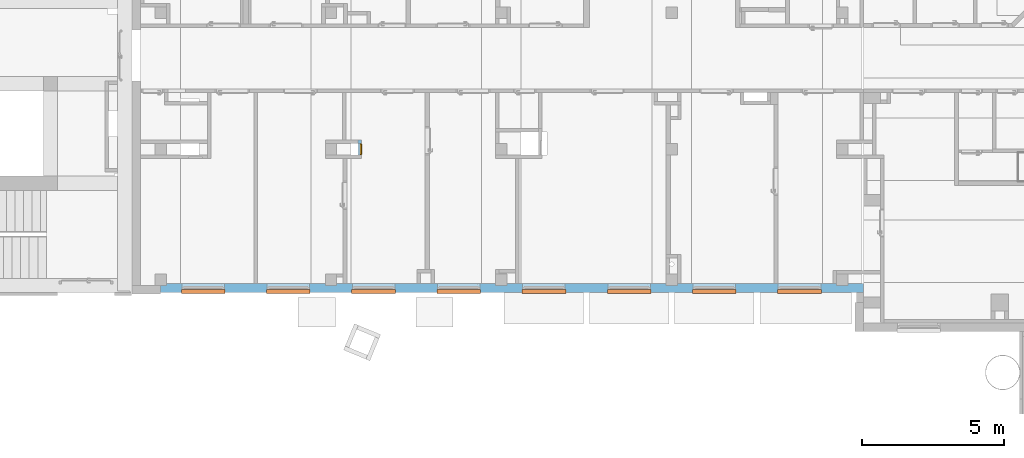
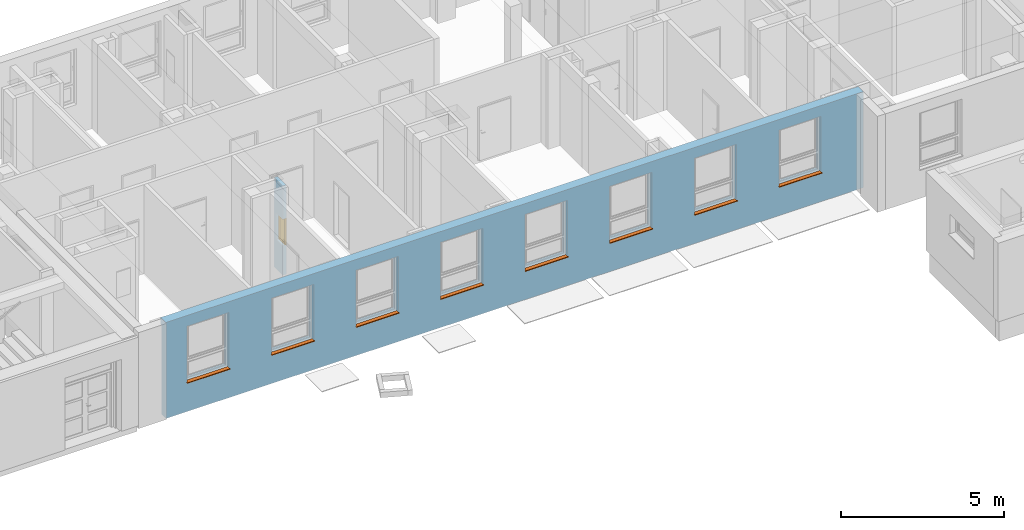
# One storey, part 63 of 140: 8 proxies, 1 window, 9 openings, plus 2 elements that do not belong to this part.
"""IFC4 building model written with IfcOpenShell, lengths in metres."""

from ifc_helpers import new_model, entity, si_unit, converted_unit, derived_unit, frame, frame_2d, origin, origin_with_axes, place, context, subcontext, project, spatial, polyline, rectangle, outline, extrude, clip, bounded_halfspace, faceted_brep, source, transform, mapped, material, layer, layer_set, layer_usage, element, fill, save


model = new_model("IFC4")

# Units and contexts
model_context = context("Model", 3, precision=1e-05, world=origin())
body_context = subcontext(model_context, "Body", "Model", "MODEL_VIEW")
ifc_project = project(units=[si_unit("LENGTHUNIT", "METRE"), si_unit("AREAUNIT", "SQUARE_METRE"), si_unit("VOLUMEUNIT", "CUBIC_METRE"), si_unit("MASSUNIT", "GRAM", prefix="KILO"), converted_unit("PLANEANGLEUNIT", "DEGREE", entity("IfcPlaneAngleMeasure", 0.0174532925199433), si_unit("PLANEANGLEUNIT", "RADIAN"), dimensions=[0, 0, 0, 0, 0, 0, 0]), derived_unit("THERMALTRANSMITTANCEUNIT", [(si_unit("POWERUNIT", "WATT"), 1), (si_unit("THERMODYNAMICTEMPERATUREUNIT", "KELVIN"), -1), (si_unit("LENGTHUNIT", "METRE"), -2)]), derived_unit("VOLUMETRICFLOWRATEUNIT", [(si_unit("LENGTHUNIT", "METRE"), 3), (converted_unit("TIMEUNIT", "hour", entity("IfcTimeMeasure", 3600.0), si_unit("TIMEUNIT", "SECOND"), dimensions=[0, 0, 1, 0, 0, 0, 0]), -1), (si_unit("LENGTHUNIT", "METRE"), -1)])], contexts=[model_context])

# Site, building, storey
site_placement = place(None, origin())
site = spatial("IfcSite", under=ifc_project, at=site_placement, Name="3. ASŘ", CompositionType="ELEMENT")
building_placement = place(site_placement, origin())
building = spatial("IfcBuilding", under=site, at=building_placement, Name="Pavilon C", CompositionType="ELEMENT")
storey_placement = place(building_placement, origin())
storey = spatial("IfcBuildingStorey", under=building, at=storey_placement, Name="Půdorys 1.NP", CompositionType="ELEMENT", Elevation=0.0)

# Wall, openings, proxies
ifc_material_1 = material(Name="ZELEZOBETONOVÁ KCE")
ifc_layer_1 = layer(ifc_material_1, 0.32)
ifc_layer_set_1 = layer_set([ifc_layer_1])
ifc_layer_usage_1 = layer_usage(ifc_layer_set_1, "AXIS2", "POSITIVE", 0.0)
wall_1_placement = place(storey_placement, frame((3.86535248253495e-15, 0.350000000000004, -0.1)))
wall_1 = element("IfcWall", 1, at=wall_1_placement, inside=storey, material=ifc_layer_usage_1, Name="ZELEZOBETONOVÁ KCE", context=body_context, shape_type="Clipping", body=[
    clip(clip(clip(clip(clip(extrude(rectangle(XDim=24.75, YDim=0.32, at=frame_2d((12.375, 0.16), x_axis=(1.0, 0.0))), origin_with_axes(), (0.0, 0.0, 1.0), 3.6), bounded_halfspace(frame((0.100000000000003, 0.285, 3.35), z_axis=(0.0, 0.0, 1.0), x_axis=(0.0, -1.0, 0.0)), True, origin_with_axes(), polyline([(-2.27373675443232e-16, 0.32), (-2.27373675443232e-16, 0.25), (0.200000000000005, 0.25), (0.200000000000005, 0.32), (-2.27373675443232e-16, 0.32)]))), bounded_halfspace(frame((18.0, 0.284999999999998, 3.35), z_axis=(0.0, 0.0, 1.0), x_axis=(-1.0, 0.0, 0.0)), True, origin_with_axes(), polyline([(18.2, 0.32), (17.8, 0.32), (17.8, 0.249999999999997), (18.2, 0.249999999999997), (18.2, 0.32)]))), bounded_halfspace(frame((12.0, 0.284999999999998, 3.35), z_axis=(0.0, 0.0, 1.0), x_axis=(-1.0, 0.0, 0.0)), True, origin_with_axes(), polyline([(12.2, 0.32), (11.8, 0.32), (11.8, 0.249999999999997), (12.2, 0.249999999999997), (12.2, 0.32)]))), bounded_halfspace(frame((6.00000000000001, 0.284999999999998, 3.35), z_axis=(0.0, 0.0, 1.0), x_axis=(-1.0, 0.0, 0.0)), True, origin_with_axes(), polyline([(6.20000000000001, 0.32), (5.80000000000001, 0.32), (5.80000000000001, 0.249999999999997), (6.20000000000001, 0.249999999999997), (6.20000000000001, 0.32)]))), bounded_halfspace(frame((24.0, 0.284999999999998, 3.35), z_axis=(0.0, 0.0, 1.0), x_axis=(-1.0, 0.0, 0.0)), True, origin_with_axes(), polyline([(24.2, 0.32), (23.8, 0.32), (23.8, 0.249999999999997), (24.2, 0.249999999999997), (24.2, 0.32)]))),
])
opening_1_placement = place(wall_1_placement, frame((3.75, 0.0, 1.1), z_axis=(0.0, 1.0, 0.0), x_axis=(0.0, 0.0, 1.0)))
opening_1 = element("IfcOpeningElement", 2, at=opening_1_placement, cuts=wall_1, Name="Okenní otvor", ObjectType="Opening", context=body_context, shape_type="SweptSolid", body=[
    extrude(outline(polyline([(0.0, 1.5), (2.1, 1.5), (2.1, 0.0), (0.0, 0.0), (0.0, 1.5)])), origin_with_axes(), (0.0, 0.0, 1.0), 0.32),
])
opening_2_placement = place(wall_1_placement, frame((6.75, 0.0, 1.1), z_axis=(0.0, 1.0, 0.0), x_axis=(0.0, 0.0, 1.0)))
opening_2 = element("IfcOpeningElement", 3, at=opening_2_placement, cuts=wall_1, Name="Okenní otvor", ObjectType="Opening", context=body_context, shape_type="SweptSolid", body=[
    extrude(outline(polyline([(0.0, 1.5), (2.1, 1.5), (2.1, 0.0), (0.0, 0.0), (0.0, 1.5)])), origin_with_axes(), (0.0, 0.0, 1.0), 0.32),
])
opening_3_placement = place(wall_1_placement, frame((9.75, 0.0, 1.1), z_axis=(0.0, 1.0, 0.0), x_axis=(0.0, 0.0, 1.0)))
opening_3 = element("IfcOpeningElement", 4, at=opening_3_placement, cuts=wall_1, Name="Okenní otvor", ObjectType="Opening", context=body_context, shape_type="SweptSolid", body=[
    extrude(outline(polyline([(0.0, 1.5), (2.1, 1.5), (2.1, 0.0), (0.0, 0.0), (0.0, 1.5)])), origin_with_axes(), (0.0, 0.0, 1.0), 0.32),
])
opening_4_placement = place(wall_1_placement, frame((12.75, 0.0, 1.1), z_axis=(0.0, 1.0, 0.0), x_axis=(0.0, 0.0, 1.0)))
opening_4 = element("IfcOpeningElement", 5, at=opening_4_placement, cuts=wall_1, Name="Okenní otvor", ObjectType="Opening", context=body_context, shape_type="SweptSolid", body=[
    extrude(outline(polyline([(0.0, 1.5), (2.1, 1.5), (2.1, 0.0), (0.0, 0.0), (0.0, 1.5)])), origin_with_axes(), (0.0, 0.0, 1.0), 0.32),
])
opening_5_placement = place(wall_1_placement, frame((15.75, 0.0, 1.1), z_axis=(0.0, 1.0, 0.0), x_axis=(0.0, 0.0, 1.0)))
opening_5 = element("IfcOpeningElement", 6, at=opening_5_placement, cuts=wall_1, Name="Okenní otvor", ObjectType="Opening", context=body_context, shape_type="SweptSolid", body=[
    extrude(outline(polyline([(0.0, 1.5), (2.1, 1.5), (2.1, 0.0), (0.0, 0.0), (0.0, 1.5)])), origin_with_axes(), (0.0, 0.0, 1.0), 0.32),
])
opening_6_placement = place(wall_1_placement, frame((18.75, 0.0, 1.1), z_axis=(0.0, 1.0, 0.0), x_axis=(0.0, 0.0, 1.0)))
opening_6 = element("IfcOpeningElement", 7, at=opening_6_placement, cuts=wall_1, Name="Okenní otvor", ObjectType="Opening", context=body_context, shape_type="SweptSolid", body=[
    extrude(outline(polyline([(0.0, 1.5), (2.1, 1.5), (2.1, 0.0), (0.0, 0.0), (0.0, 1.5)])), origin_with_axes(), (0.0, 0.0, 1.0), 0.32),
])
opening_7_placement = place(wall_1_placement, frame((21.75, 0.0, 1.1), z_axis=(0.0, 1.0, 0.0), x_axis=(0.0, 0.0, 1.0)))
opening_7 = element("IfcOpeningElement", 8, at=opening_7_placement, cuts=wall_1, Name="Okenní otvor", ObjectType="Opening", context=body_context, shape_type="SweptSolid", body=[
    extrude(outline(polyline([(0.0, 1.5), (2.1, 1.5), (2.1, 0.0), (0.0, 0.0), (0.0, 1.5)])), origin_with_axes(), (0.0, 0.0, 1.0), 0.32),
])
opening_8_placement = place(wall_1_placement, frame((0.75, 0.0, 1.1), z_axis=(0.0, 1.0, 0.0), x_axis=(0.0, 0.0, 1.0)))
opening_8 = element("IfcOpeningElement", 9, at=opening_8_placement, cuts=wall_1, Name="Okenní otvor", ObjectType="Opening", context=body_context, shape_type="SweptSolid", body=[
    extrude(outline(polyline([(0.0, 1.5), (2.1, 1.5), (2.1, 0.0), (0.0, 0.0), (0.0, 1.5)])), origin_with_axes(), (0.0, 0.0, 1.0), 0.32),
])
ifc_material_2 = material(Name="PLECH")
shared_shape_1 = source(origin_with_axes(), body_context, "Body", "Brep", [
    faceted_brep([(0.0, 0.0, 0.0), (0.0, 0.1, 0.0), (0.0, 0.1, 0.005), (0.0, 0.0, 0.005), (1.5, 0.0, 0.0), (1.5, 0.0, 0.005), (1.5, 0.1, 0.005), (1.5, 0.1, 0.0), (-0.02, 0.0, 0.0), (-0.02, -0.035, 0.0), (1.52, -0.035, 0.0), (1.52, 0.0, 0.0), (1.52, 0.0, 0.005), (1.52, -0.04, 0.005), (-0.02, -0.04, 0.005), (-0.02, 0.0, 0.005), (-0.02, -0.04, -0.025), (-0.02, -0.035, -0.025), (1.52, -0.035, -0.025), (1.52, -0.04, -0.025)], [[[0, 1, 2, 3]], [[4, 5, 6, 7]], [[1, 0, 8, 9, 10, 11, 4, 7]], [[2, 1, 7, 6]], [[3, 2, 6, 5, 12, 13, 14, 15]], [[8, 15, 14, 16, 17, 9]], [[11, 10, 18, 19, 13, 12]], [[15, 8, 0, 3]], [[5, 4, 11, 12]], [[16, 14, 13, 19]], [[17, 16, 19, 18]], [[9, 17, 18, 10]]], orient=[[False], [False], [False], [False], [False], [False], [False], [False], [False], [False], [False], [False]]),
    faceted_brep([(-0.02, 0.0, 0.0), (-0.02, 0.1, 0.0), (-0.02, 0.1, 0.005), (-0.02, 0.0, 0.005), (0.0, 0.0, 0.0), (0.0, 0.0, 0.005), (0.0, 0.1, 0.005), (0.0, 0.1, 0.0)], [[[0, 1, 2, 3]], [[4, 5, 6, 7]], [[1, 0, 4, 7]], [[2, 1, 7, 6]], [[3, 2, 6, 5]], [[0, 3, 5, 4]]], orient=[[False], [False], [False], [False], [False], [False]]),
    faceted_brep([(1.5, 0.0, 0.0), (1.5, 0.1, 0.0), (1.5, 0.1, 0.005), (1.5, 0.0, 0.005), (1.52, 0.0, 0.0), (1.52, 0.0, 0.005), (1.52, 0.1, 0.005), (1.52, 0.1, 0.0)], [[[0, 1, 2, 3]], [[4, 5, 6, 7]], [[1, 0, 4, 7]], [[2, 1, 7, 6]], [[3, 2, 6, 5]], [[0, 3, 5, 4]]], orient=[[False], [False], [False], [False], [False], [False]]),
])
proxy_1_placement = place(opening_1_placement, frame((0.0, 0.0, 0.0), z_axis=(1.0, 0.0, 0.0), x_axis=(0.0, 1.0, 0.0)))
proxy_1 = element("IfcBuildingElementProxy", 10, at=proxy_1_placement, inside=storey, material=ifc_material_2, Name="Parapet vnější", context=body_context, shape_type="MappedRepresentation", body=[
    mapped(shared_shape_1, transform((0.0, 0.0, 0.0), x_axis=(1.0, 0.0, 0.0), y_axis=(0.0, 1.0, 0.0), z_axis=(0.0, 0.0, 1.0), scale=1.0)),
])
fill(opening_1, proxy_1)
ifc_material_3 = material(Name="PLECH")
shared_shape_2 = source(origin_with_axes(), body_context, "Body", "Brep", [
    faceted_brep([(0.0, 0.0, 0.0), (0.0, 0.1, 0.0), (0.0, 0.1, 0.005), (0.0, 0.0, 0.005), (1.5, 0.0, 0.0), (1.5, 0.0, 0.005), (1.5, 0.1, 0.005), (1.5, 0.1, 0.0), (-0.02, 0.0, 0.0), (-0.02, -0.035, 0.0), (1.52, -0.035, 0.0), (1.52, 0.0, 0.0), (1.52, 0.0, 0.005), (1.52, -0.04, 0.005), (-0.02, -0.04, 0.005), (-0.02, 0.0, 0.005), (-0.02, -0.04, -0.025), (-0.02, -0.035, -0.025), (1.52, -0.035, -0.025), (1.52, -0.04, -0.025)], [[[0, 1, 2, 3]], [[4, 5, 6, 7]], [[1, 0, 8, 9, 10, 11, 4, 7]], [[2, 1, 7, 6]], [[3, 2, 6, 5, 12, 13, 14, 15]], [[8, 15, 14, 16, 17, 9]], [[11, 10, 18, 19, 13, 12]], [[15, 8, 0, 3]], [[5, 4, 11, 12]], [[16, 14, 13, 19]], [[17, 16, 19, 18]], [[9, 17, 18, 10]]], orient=[[False], [False], [False], [False], [False], [False], [False], [False], [False], [False], [False], [False]]),
    faceted_brep([(-0.02, 0.0, 0.0), (-0.02, 0.1, 0.0), (-0.02, 0.1, 0.005), (-0.02, 0.0, 0.005), (0.0, 0.0, 0.0), (0.0, 0.0, 0.005), (0.0, 0.1, 0.005), (0.0, 0.1, 0.0)], [[[0, 1, 2, 3]], [[4, 5, 6, 7]], [[1, 0, 4, 7]], [[2, 1, 7, 6]], [[3, 2, 6, 5]], [[0, 3, 5, 4]]], orient=[[False], [False], [False], [False], [False], [False]]),
    faceted_brep([(1.5, 0.0, 0.0), (1.5, 0.1, 0.0), (1.5, 0.1, 0.005), (1.5, 0.0, 0.005), (1.52, 0.0, 0.0), (1.52, 0.0, 0.005), (1.52, 0.1, 0.005), (1.52, 0.1, 0.0)], [[[0, 1, 2, 3]], [[4, 5, 6, 7]], [[1, 0, 4, 7]], [[2, 1, 7, 6]], [[3, 2, 6, 5]], [[0, 3, 5, 4]]], orient=[[False], [False], [False], [False], [False], [False]]),
])
proxy_2_placement = place(opening_2_placement, frame((0.0, 0.0, 0.0), z_axis=(1.0, 0.0, 0.0), x_axis=(0.0, 1.0, 0.0)))
proxy_2 = element("IfcBuildingElementProxy", 11, at=proxy_2_placement, inside=storey, material=ifc_material_3, Name="Parapet vnější", context=body_context, shape_type="MappedRepresentation", body=[
    mapped(shared_shape_2, transform((0.0, 0.0, 0.0), x_axis=(1.0, 0.0, 0.0), y_axis=(0.0, 1.0, 0.0), z_axis=(0.0, 0.0, 1.0), scale=1.0)),
])
fill(opening_2, proxy_2)
ifc_material_4 = material(Name="PLECH")
shared_shape_3 = source(origin_with_axes(), body_context, "Body", "Brep", [
    faceted_brep([(0.0, 0.0, 0.0), (0.0, 0.1, 0.0), (0.0, 0.1, 0.005), (0.0, 0.0, 0.005), (1.5, 0.0, 0.0), (1.5, 0.0, 0.005), (1.5, 0.1, 0.005), (1.5, 0.1, 0.0), (-0.02, 0.0, 0.0), (-0.02, -0.035, 0.0), (1.52, -0.035, 0.0), (1.52, 0.0, 0.0), (1.52, 0.0, 0.005), (1.52, -0.04, 0.005), (-0.02, -0.04, 0.005), (-0.02, 0.0, 0.005), (-0.02, -0.04, -0.025), (-0.02, -0.035, -0.025), (1.52, -0.035, -0.025), (1.52, -0.04, -0.025)], [[[0, 1, 2, 3]], [[4, 5, 6, 7]], [[1, 0, 8, 9, 10, 11, 4, 7]], [[2, 1, 7, 6]], [[3, 2, 6, 5, 12, 13, 14, 15]], [[8, 15, 14, 16, 17, 9]], [[11, 10, 18, 19, 13, 12]], [[15, 8, 0, 3]], [[5, 4, 11, 12]], [[16, 14, 13, 19]], [[17, 16, 19, 18]], [[9, 17, 18, 10]]], orient=[[False], [False], [False], [False], [False], [False], [False], [False], [False], [False], [False], [False]]),
    faceted_brep([(-0.02, 0.0, 0.0), (-0.02, 0.1, 0.0), (-0.02, 0.1, 0.005), (-0.02, 0.0, 0.005), (0.0, 0.0, 0.0), (0.0, 0.0, 0.005), (0.0, 0.1, 0.005), (0.0, 0.1, 0.0)], [[[0, 1, 2, 3]], [[4, 5, 6, 7]], [[1, 0, 4, 7]], [[2, 1, 7, 6]], [[3, 2, 6, 5]], [[0, 3, 5, 4]]], orient=[[False], [False], [False], [False], [False], [False]]),
    faceted_brep([(1.5, 0.0, 0.0), (1.5, 0.1, 0.0), (1.5, 0.1, 0.005), (1.5, 0.0, 0.005), (1.52, 0.0, 0.0), (1.52, 0.0, 0.005), (1.52, 0.1, 0.005), (1.52, 0.1, 0.0)], [[[0, 1, 2, 3]], [[4, 5, 6, 7]], [[1, 0, 4, 7]], [[2, 1, 7, 6]], [[3, 2, 6, 5]], [[0, 3, 5, 4]]], orient=[[False], [False], [False], [False], [False], [False]]),
])
proxy_3_placement = place(opening_3_placement, frame((0.0, 0.0, 0.0), z_axis=(1.0, 0.0, 0.0), x_axis=(0.0, 1.0, 0.0)))
proxy_3 = element("IfcBuildingElementProxy", 12, at=proxy_3_placement, inside=storey, material=ifc_material_4, Name="Parapet vnější", context=body_context, shape_type="MappedRepresentation", body=[
    mapped(shared_shape_3, transform((0.0, 0.0, 0.0), x_axis=(1.0, 0.0, 0.0), y_axis=(0.0, 1.0, 0.0), z_axis=(0.0, 0.0, 1.0), scale=1.0)),
])
fill(opening_3, proxy_3)
ifc_material_5 = material(Name="PLECH")
shared_shape_4 = source(origin_with_axes(), body_context, "Body", "Brep", [
    faceted_brep([(0.0, 0.0, 0.0), (0.0, 0.1, 0.0), (0.0, 0.1, 0.005), (0.0, 0.0, 0.005), (1.5, 0.0, 0.0), (1.5, 0.0, 0.005), (1.5, 0.1, 0.005), (1.5, 0.1, 0.0), (-0.02, 0.0, 0.0), (-0.02, -0.035, 0.0), (1.52, -0.035, 0.0), (1.52, 0.0, 0.0), (1.52, 0.0, 0.005), (1.52, -0.04, 0.005), (-0.02, -0.04, 0.005), (-0.02, 0.0, 0.005), (-0.02, -0.04, -0.025), (-0.02, -0.035, -0.025), (1.52, -0.035, -0.025), (1.52, -0.04, -0.025)], [[[0, 1, 2, 3]], [[4, 5, 6, 7]], [[1, 0, 8, 9, 10, 11, 4, 7]], [[2, 1, 7, 6]], [[3, 2, 6, 5, 12, 13, 14, 15]], [[8, 15, 14, 16, 17, 9]], [[11, 10, 18, 19, 13, 12]], [[15, 8, 0, 3]], [[5, 4, 11, 12]], [[16, 14, 13, 19]], [[17, 16, 19, 18]], [[9, 17, 18, 10]]], orient=[[False], [False], [False], [False], [False], [False], [False], [False], [False], [False], [False], [False]]),
    faceted_brep([(-0.02, 0.0, 0.0), (-0.02, 0.1, 0.0), (-0.02, 0.1, 0.005), (-0.02, 0.0, 0.005), (0.0, 0.0, 0.0), (0.0, 0.0, 0.005), (0.0, 0.1, 0.005), (0.0, 0.1, 0.0)], [[[0, 1, 2, 3]], [[4, 5, 6, 7]], [[1, 0, 4, 7]], [[2, 1, 7, 6]], [[3, 2, 6, 5]], [[0, 3, 5, 4]]], orient=[[False], [False], [False], [False], [False], [False]]),
    faceted_brep([(1.5, 0.0, 0.0), (1.5, 0.1, 0.0), (1.5, 0.1, 0.005), (1.5, 0.0, 0.005), (1.52, 0.0, 0.0), (1.52, 0.0, 0.005), (1.52, 0.1, 0.005), (1.52, 0.1, 0.0)], [[[0, 1, 2, 3]], [[4, 5, 6, 7]], [[1, 0, 4, 7]], [[2, 1, 7, 6]], [[3, 2, 6, 5]], [[0, 3, 5, 4]]], orient=[[False], [False], [False], [False], [False], [False]]),
])
proxy_4_placement = place(opening_4_placement, frame((0.0, 0.0, 0.0), z_axis=(1.0, 0.0, 0.0), x_axis=(0.0, 1.0, 0.0)))
proxy_4 = element("IfcBuildingElementProxy", 13, at=proxy_4_placement, inside=storey, material=ifc_material_5, Name="Parapet vnější", context=body_context, shape_type="MappedRepresentation", body=[
    mapped(shared_shape_4, transform((0.0, 0.0, 0.0), x_axis=(1.0, 0.0, 0.0), y_axis=(0.0, 1.0, 0.0), z_axis=(0.0, 0.0, 1.0), scale=1.0)),
])
fill(opening_4, proxy_4)
ifc_material_6 = material(Name="PLECH")
shared_shape_5 = source(origin_with_axes(), body_context, "Body", "Brep", [
    faceted_brep([(0.0, 0.0, 0.0), (0.0, 0.1, 0.0), (0.0, 0.1, 0.005), (0.0, 0.0, 0.005), (1.5, 0.0, 0.0), (1.5, 0.0, 0.005), (1.5, 0.1, 0.005), (1.5, 0.1, 0.0), (-0.02, 0.0, 0.0), (-0.02, -0.035, 0.0), (1.52, -0.035, 0.0), (1.52, 0.0, 0.0), (1.52, 0.0, 0.005), (1.52, -0.04, 0.005), (-0.02, -0.04, 0.005), (-0.02, 0.0, 0.005), (-0.02, -0.04, -0.025), (-0.02, -0.035, -0.025), (1.52, -0.035, -0.025), (1.52, -0.04, -0.025)], [[[0, 1, 2, 3]], [[4, 5, 6, 7]], [[1, 0, 8, 9, 10, 11, 4, 7]], [[2, 1, 7, 6]], [[3, 2, 6, 5, 12, 13, 14, 15]], [[8, 15, 14, 16, 17, 9]], [[11, 10, 18, 19, 13, 12]], [[15, 8, 0, 3]], [[5, 4, 11, 12]], [[16, 14, 13, 19]], [[17, 16, 19, 18]], [[9, 17, 18, 10]]], orient=[[False], [False], [False], [False], [False], [False], [False], [False], [False], [False], [False], [False]]),
    faceted_brep([(-0.02, 0.0, 0.0), (-0.02, 0.1, 0.0), (-0.02, 0.1, 0.005), (-0.02, 0.0, 0.005), (0.0, 0.0, 0.0), (0.0, 0.0, 0.005), (0.0, 0.1, 0.005), (0.0, 0.1, 0.0)], [[[0, 1, 2, 3]], [[4, 5, 6, 7]], [[1, 0, 4, 7]], [[2, 1, 7, 6]], [[3, 2, 6, 5]], [[0, 3, 5, 4]]], orient=[[False], [False], [False], [False], [False], [False]]),
    faceted_brep([(1.5, 0.0, 0.0), (1.5, 0.1, 0.0), (1.5, 0.1, 0.005), (1.5, 0.0, 0.005), (1.52, 0.0, 0.0), (1.52, 0.0, 0.005), (1.52, 0.1, 0.005), (1.52, 0.1, 0.0)], [[[0, 1, 2, 3]], [[4, 5, 6, 7]], [[1, 0, 4, 7]], [[2, 1, 7, 6]], [[3, 2, 6, 5]], [[0, 3, 5, 4]]], orient=[[False], [False], [False], [False], [False], [False]]),
])
proxy_5_placement = place(opening_5_placement, frame((0.0, 0.0, 0.0), z_axis=(1.0, 0.0, 0.0), x_axis=(0.0, 1.0, 0.0)))
proxy_5 = element("IfcBuildingElementProxy", 14, at=proxy_5_placement, inside=storey, material=ifc_material_6, Name="Parapet vnější", context=body_context, shape_type="MappedRepresentation", body=[
    mapped(shared_shape_5, transform((0.0, 0.0, 0.0), x_axis=(1.0, 0.0, 0.0), y_axis=(0.0, 1.0, 0.0), z_axis=(0.0, 0.0, 1.0), scale=1.0)),
])
fill(opening_5, proxy_5)
ifc_material_7 = material(Name="PLECH")
shared_shape_6 = source(origin_with_axes(), body_context, "Body", "Brep", [
    faceted_brep([(0.0, 0.0, 0.0), (0.0, 0.1, 0.0), (0.0, 0.1, 0.005), (0.0, 0.0, 0.005), (1.5, 0.0, 0.0), (1.5, 0.0, 0.005), (1.5, 0.1, 0.005), (1.5, 0.1, 0.0), (-0.02, 0.0, 0.0), (-0.02, -0.035, 0.0), (1.52, -0.035, 0.0), (1.52, 0.0, 0.0), (1.52, 0.0, 0.005), (1.52, -0.04, 0.005), (-0.02, -0.04, 0.005), (-0.02, 0.0, 0.005), (-0.02, -0.04, -0.025), (-0.02, -0.035, -0.025), (1.52, -0.035, -0.025), (1.52, -0.04, -0.025)], [[[0, 1, 2, 3]], [[4, 5, 6, 7]], [[1, 0, 8, 9, 10, 11, 4, 7]], [[2, 1, 7, 6]], [[3, 2, 6, 5, 12, 13, 14, 15]], [[8, 15, 14, 16, 17, 9]], [[11, 10, 18, 19, 13, 12]], [[15, 8, 0, 3]], [[5, 4, 11, 12]], [[16, 14, 13, 19]], [[17, 16, 19, 18]], [[9, 17, 18, 10]]], orient=[[False], [False], [False], [False], [False], [False], [False], [False], [False], [False], [False], [False]]),
    faceted_brep([(-0.02, 0.0, 0.0), (-0.02, 0.1, 0.0), (-0.02, 0.1, 0.005), (-0.02, 0.0, 0.005), (0.0, 0.0, 0.0), (0.0, 0.0, 0.005), (0.0, 0.1, 0.005), (0.0, 0.1, 0.0)], [[[0, 1, 2, 3]], [[4, 5, 6, 7]], [[1, 0, 4, 7]], [[2, 1, 7, 6]], [[3, 2, 6, 5]], [[0, 3, 5, 4]]], orient=[[False], [False], [False], [False], [False], [False]]),
    faceted_brep([(1.5, 0.0, 0.0), (1.5, 0.1, 0.0), (1.5, 0.1, 0.005), (1.5, 0.0, 0.005), (1.52, 0.0, 0.0), (1.52, 0.0, 0.005), (1.52, 0.1, 0.005), (1.52, 0.1, 0.0)], [[[0, 1, 2, 3]], [[4, 5, 6, 7]], [[1, 0, 4, 7]], [[2, 1, 7, 6]], [[3, 2, 6, 5]], [[0, 3, 5, 4]]], orient=[[False], [False], [False], [False], [False], [False]]),
])
proxy_6_placement = place(opening_6_placement, frame((0.0, 0.0, 0.0), z_axis=(1.0, 0.0, 0.0), x_axis=(0.0, 1.0, 0.0)))
proxy_6 = element("IfcBuildingElementProxy", 15, at=proxy_6_placement, inside=storey, material=ifc_material_7, Name="Parapet vnější", context=body_context, shape_type="MappedRepresentation", body=[
    mapped(shared_shape_6, transform((0.0, 0.0, 0.0), x_axis=(1.0, 0.0, 0.0), y_axis=(0.0, 1.0, 0.0), z_axis=(0.0, 0.0, 1.0), scale=1.0)),
])
fill(opening_6, proxy_6)
ifc_material_8 = material(Name="PLECH")
shared_shape_7 = source(origin_with_axes(), body_context, "Body", "Brep", [
    faceted_brep([(0.0, 0.0, 0.0), (0.0, 0.1, 0.0), (0.0, 0.1, 0.005), (0.0, 0.0, 0.005), (1.5, 0.0, 0.0), (1.5, 0.0, 0.005), (1.5, 0.1, 0.005), (1.5, 0.1, 0.0), (-0.02, 0.0, 0.0), (-0.02, -0.035, 0.0), (1.52, -0.035, 0.0), (1.52, 0.0, 0.0), (1.52, 0.0, 0.005), (1.52, -0.04, 0.005), (-0.02, -0.04, 0.005), (-0.02, 0.0, 0.005), (-0.02, -0.04, -0.025), (-0.02, -0.035, -0.025), (1.52, -0.035, -0.025), (1.52, -0.04, -0.025)], [[[0, 1, 2, 3]], [[4, 5, 6, 7]], [[1, 0, 8, 9, 10, 11, 4, 7]], [[2, 1, 7, 6]], [[3, 2, 6, 5, 12, 13, 14, 15]], [[8, 15, 14, 16, 17, 9]], [[11, 10, 18, 19, 13, 12]], [[15, 8, 0, 3]], [[5, 4, 11, 12]], [[16, 14, 13, 19]], [[17, 16, 19, 18]], [[9, 17, 18, 10]]], orient=[[False], [False], [False], [False], [False], [False], [False], [False], [False], [False], [False], [False]]),
    faceted_brep([(-0.02, 0.0, 0.0), (-0.02, 0.1, 0.0), (-0.02, 0.1, 0.005), (-0.02, 0.0, 0.005), (0.0, 0.0, 0.0), (0.0, 0.0, 0.005), (0.0, 0.1, 0.005), (0.0, 0.1, 0.0)], [[[0, 1, 2, 3]], [[4, 5, 6, 7]], [[1, 0, 4, 7]], [[2, 1, 7, 6]], [[3, 2, 6, 5]], [[0, 3, 5, 4]]], orient=[[False], [False], [False], [False], [False], [False]]),
    faceted_brep([(1.5, 0.0, 0.0), (1.5, 0.1, 0.0), (1.5, 0.1, 0.005), (1.5, 0.0, 0.005), (1.52, 0.0, 0.0), (1.52, 0.0, 0.005), (1.52, 0.1, 0.005), (1.52, 0.1, 0.0)], [[[0, 1, 2, 3]], [[4, 5, 6, 7]], [[1, 0, 4, 7]], [[2, 1, 7, 6]], [[3, 2, 6, 5]], [[0, 3, 5, 4]]], orient=[[False], [False], [False], [False], [False], [False]]),
])
proxy_7_placement = place(opening_7_placement, frame((0.0, 0.0, 0.0), z_axis=(1.0, 0.0, 0.0), x_axis=(0.0, 1.0, 0.0)))
proxy_7 = element("IfcBuildingElementProxy", 16, at=proxy_7_placement, inside=storey, material=ifc_material_8, Name="Parapet vnější", context=body_context, shape_type="MappedRepresentation", body=[
    mapped(shared_shape_7, transform((0.0, 0.0, 0.0), x_axis=(1.0, 0.0, 0.0), y_axis=(0.0, 1.0, 0.0), z_axis=(0.0, 0.0, 1.0), scale=1.0)),
])
fill(opening_7, proxy_7)
ifc_material_9 = material(Name="PLECH")
shared_shape_8 = source(origin_with_axes(), body_context, "Body", "Brep", [
    faceted_brep([(0.0, 0.0, 0.0), (0.0, 0.1, 0.0), (0.0, 0.1, 0.005), (0.0, 0.0, 0.005), (1.5, 0.0, 0.0), (1.5, 0.0, 0.005), (1.5, 0.1, 0.005), (1.5, 0.1, 0.0), (-0.02, 0.0, 0.0), (-0.02, -0.035, 0.0), (1.52, -0.035, 0.0), (1.52, 0.0, 0.0), (1.52, 0.0, 0.005), (1.52, -0.04, 0.005), (-0.02, -0.04, 0.005), (-0.02, 0.0, 0.005), (-0.02, -0.04, -0.025), (-0.02, -0.035, -0.025), (1.52, -0.035, -0.025), (1.52, -0.04, -0.025)], [[[0, 1, 2, 3]], [[4, 5, 6, 7]], [[1, 0, 8, 9, 10, 11, 4, 7]], [[2, 1, 7, 6]], [[3, 2, 6, 5, 12, 13, 14, 15]], [[8, 15, 14, 16, 17, 9]], [[11, 10, 18, 19, 13, 12]], [[15, 8, 0, 3]], [[5, 4, 11, 12]], [[16, 14, 13, 19]], [[17, 16, 19, 18]], [[9, 17, 18, 10]]], orient=[[False], [False], [False], [False], [False], [False], [False], [False], [False], [False], [False], [False]]),
    faceted_brep([(-0.02, 0.0, 0.0), (-0.02, 0.1, 0.0), (-0.02, 0.1, 0.005), (-0.02, 0.0, 0.005), (0.0, 0.0, 0.0), (0.0, 0.0, 0.005), (0.0, 0.1, 0.005), (0.0, 0.1, 0.0)], [[[0, 1, 2, 3]], [[4, 5, 6, 7]], [[1, 0, 4, 7]], [[2, 1, 7, 6]], [[3, 2, 6, 5]], [[0, 3, 5, 4]]], orient=[[False], [False], [False], [False], [False], [False]]),
    faceted_brep([(1.5, 0.0, 0.0), (1.5, 0.1, 0.0), (1.5, 0.1, 0.005), (1.5, 0.0, 0.005), (1.52, 0.0, 0.0), (1.52, 0.0, 0.005), (1.52, 0.1, 0.005), (1.52, 0.1, 0.0)], [[[0, 1, 2, 3]], [[4, 5, 6, 7]], [[1, 0, 4, 7]], [[2, 1, 7, 6]], [[3, 2, 6, 5]], [[0, 3, 5, 4]]], orient=[[False], [False], [False], [False], [False], [False]]),
])
proxy_8_placement = place(opening_8_placement, frame((0.0, 0.0, 0.0), z_axis=(1.0, 0.0, 0.0), x_axis=(0.0, 1.0, 0.0)))
proxy_8 = element("IfcBuildingElementProxy", 17, at=proxy_8_placement, inside=storey, material=ifc_material_9, Name="Parapet vnější", context=body_context, shape_type="MappedRepresentation", body=[
    mapped(shared_shape_8, transform((0.0, 0.0, 0.0), x_axis=(1.0, 0.0, 0.0), y_axis=(0.0, 1.0, 0.0), z_axis=(0.0, 0.0, 1.0), scale=1.0)),
])
fill(opening_8, proxy_8)

# Wall, opening, window
ifc_material_10 = material(Name="ZDIVO Z CDm")
ifc_layer_2 = layer(ifc_material_10, 0.125)
ifc_layer_set_2 = layer_set([ifc_layer_2])
ifc_layer_usage_2 = layer_usage(ifc_layer_set_2, "AXIS2", "POSITIVE", 0.0)
wall_2_placement = place(storey_placement, frame((6.95000000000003, 5.725, -0.1), z_axis=(0.0, 0.0, 1.0), x_axis=(0.0, -1.0, 0.0)))
wall_2 = element("IfcWall", 18, at=wall_2_placement, inside=storey, material=ifc_layer_usage_2, Name="ZDIVO Z CDm", context=body_context, shape_type="SweptSolid", body=[
    extrude(rectangle(XDim=0.525, YDim=0.125, at=frame_2d((0.2625, 0.0625), x_axis=(1.0, 0.0))), origin_with_axes(), (0.0, 0.0, 1.0), 3.35),
])
opening_9_placement = place(wall_2_placement, frame((0.525, 0.125, 1.1), z_axis=(0.0, -1.0, 0.0), x_axis=(0.0, 0.0, 1.0)))
opening_9 = element("IfcOpeningElement", 19, at=opening_9_placement, cuts=wall_2, Name="Okenní otvor", ObjectType="Opening", context=body_context, shape_type="SweptSolid", body=[
    extrude(outline(polyline([(0.0, 0.399999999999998), (1.0, 0.399999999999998), (1.0, 0.0), (0.0, 0.0), (0.0, 0.399999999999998)])), origin_with_axes(), (0.0, 0.0, 1.0), 0.125),
])
shared_shape_9 = source(origin_with_axes(), body_context, "Body", "Brep", [
    faceted_brep([(0.0, 0.0600000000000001, 1.0), (0.0, 0.06, 4.91096680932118e-19), (0.02, 0.06, 4.91096680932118e-19), (0.02, 0.0600000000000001, 1.0), (0.0, 0.01, 6.61433067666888e-18), (0.0, 0.0100000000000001, 1.0), (0.02, 0.0100000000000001, 1.0), (0.02, 0.01, 6.61433067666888e-18)], [[[0, 1, 2, 3]], [[4, 5, 6, 7]], [[1, 0, 5, 4]], [[2, 1, 4, 7]], [[3, 2, 7, 6]], [[0, 3, 6, 5]]], orient=[[False], [False], [False], [False], [False], [False]]),
    faceted_brep([(0.379999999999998, 0.0600000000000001, 1.0), (0.379999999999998, 0.06, 4.91096680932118e-19), (0.399999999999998, 0.06, 4.91096680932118e-19), (0.399999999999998, 0.0600000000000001, 1.0), (0.379999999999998, 0.01, 6.61433067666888e-18), (0.379999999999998, 0.0100000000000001, 1.0), (0.399999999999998, 0.0100000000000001, 1.0), (0.399999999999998, 0.01, 6.61433067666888e-18)], [[[0, 1, 2, 3]], [[4, 5, 6, 7]], [[1, 0, 5, 4]], [[2, 1, 4, 7]], [[3, 2, 7, 6]], [[0, 3, 6, 5]]], orient=[[False], [False], [False], [False], [False], [False]]),
    faceted_brep([(0.02, 0.06, 0.02), (0.02, 0.06, 4.91096680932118e-19), (0.379999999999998, 0.06, 4.91096680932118e-19), (0.379999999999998, 0.06, 0.02), (0.02, 0.01, 6.61433067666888e-18), (0.02, 0.01, 0.02), (0.379999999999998, 0.01, 0.02), (0.379999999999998, 0.01, 6.61433067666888e-18)], [[[0, 1, 2, 3]], [[4, 5, 6, 7]], [[1, 0, 5, 4]], [[2, 1, 4, 7]], [[3, 2, 7, 6]], [[0, 3, 6, 5]]], orient=[[False], [False], [False], [False], [False], [False]]),
    faceted_brep([(0.02, 0.0600000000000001, 1.0), (0.02, 0.0600000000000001, 0.98), (0.379999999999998, 0.0600000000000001, 0.98), (0.379999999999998, 0.0600000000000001, 1.0), (0.02, 0.0100000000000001, 0.98), (0.02, 0.0100000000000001, 1.0), (0.379999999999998, 0.0100000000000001, 1.0), (0.379999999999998, 0.0100000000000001, 0.98)], [[[0, 1, 2, 3]], [[4, 5, 6, 7]], [[1, 0, 5, 4]], [[2, 1, 4, 7]], [[3, 2, 7, 6]], [[0, 3, 6, 5]]], orient=[[False], [False], [False], [False], [False], [False]]),
    faceted_brep([(0.02, 0.0100000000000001, 0.98), (0.02, 0.01, 0.02), (0.379999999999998, 0.01, 0.02), (0.379999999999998, 0.0100000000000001, 0.98), (0.02, 0.0, 0.02), (0.02, 1.17239551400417e-16, 0.98), (0.379999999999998, 1.17239551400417e-16, 0.98), (0.379999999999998, 0.0, 0.02)], [[[0, 1, 2, 3]], [[4, 5, 6, 7]], [[1, 0, 5, 4]], [[2, 1, 4, 7]], [[3, 2, 7, 6]], [[0, 3, 6, 5]]], orient=[[False], [False], [False], [False], [False], [False]]),
])
window_placement = place(opening_9_placement, frame((0.0, -1.81898940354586e-15, -0.00999999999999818), z_axis=(1.0, 0.0, 0.0), x_axis=(0.0, 1.0, -1.22464679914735e-16)))
window = element("IfcWindow", 20, at=window_placement, inside=storey, Name="O01", OverallHeight=1.0, OverallWidth=0.4, PartitioningType="USERDEFINED", PredefinedType="WINDOW", context=body_context, shape_type="MappedRepresentation", body=[
    mapped(shared_shape_9, transform((0.0, 0.0, 0.0), x_axis=(1.0, 0.0, 0.0), y_axis=(0.0, 1.0, 0.0), z_axis=(0.0, 0.0, 1.0), scale=1.0)),
])
fill(opening_9, window)

save(model, "model.ifc")
